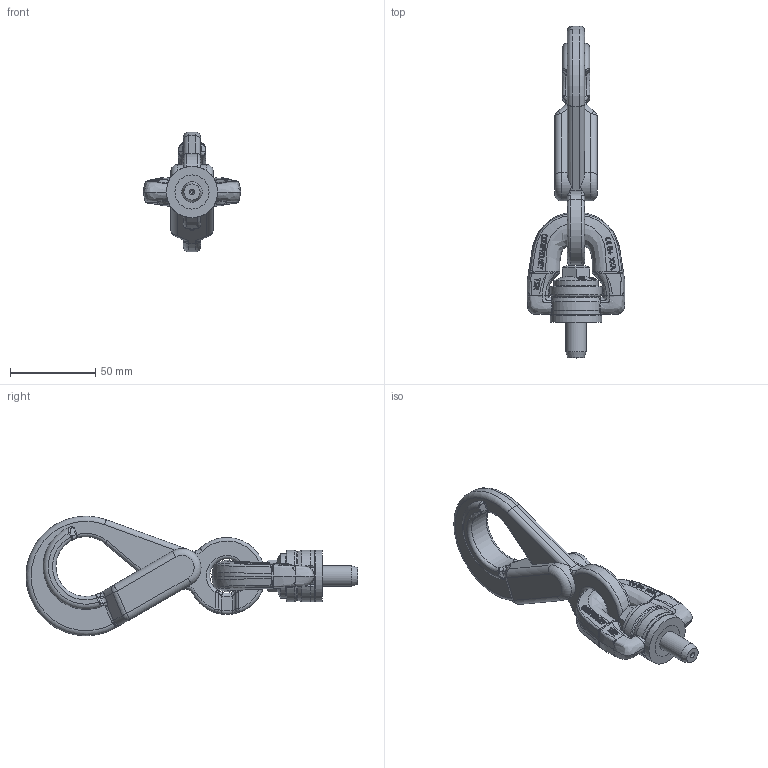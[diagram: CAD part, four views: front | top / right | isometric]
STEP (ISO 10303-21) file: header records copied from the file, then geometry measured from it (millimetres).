
FILE_DESCRIPTION(/* description */ (''),/* implementation_level */ '2;1');
FILE_NAME(/* name */ 'W:\CODIPRO\DOCUMENTS\Plans A NE PAS DIFFUSER !!!\Inventor\Standard Inventor\Produit Fini Inventor\DSH\Fichiers 3D\DSH M12.stp',/* time_stamp */ '2017-10-06T09:09:25+02:00',/* author */ ('rklenes'),/* organization */ (''),/* preprocessor_version */ 'ST-DEVELOPER v16.5',/* originating_system */ 'Autodesk Inventor 2017',/* authorisation */ '');
FILE_SCHEMA (('AUTOMOTIVE_DESIGN { 1 0 10303 214 3 1 1 }'));
Products named in the file (6): DSH M12; TSM_AO1C; DHH_S1; DRB_B1B; DRA_M12X42; DRE_D1M12A
Assembly tree (5 placements, depth 2):
  DSH M12
    TSM_AO1C
    DHH_S1
    DRB_B1B
    DRA_M12X42
    DRE_D1M12A
Bounding box: 57.01 x 194.25 x 70 mm (x, y, z)
Volume: 114013.7 mm3; surface area: 34031.3 mm2
Topology: 5 solids, 5 shells, 822 faces, 2129 edges, 1305 vertices
Faces by surface type: bspline 383, plane 282, cylinder 77, torus 35, cone 32, sphere 13
Full cylindrical faces by diameter (mm): 1.6 x1, 10 x2, 12 x3, 12.2 x1, 14.7 x2, 15 x2, 22 x1, 26 x1, 30 x2
Entity records: 47817 total; most frequent: CARTESIAN_POINT 30365, ORIENTED_EDGE 4084, DIRECTION 2699, EDGE_CURVE 2042, VERTEX_POINT 1300, AXIS2_PLACEMENT_3D 1032, EDGE_LOOP 900, FACE_OUTER_BOUND 822
